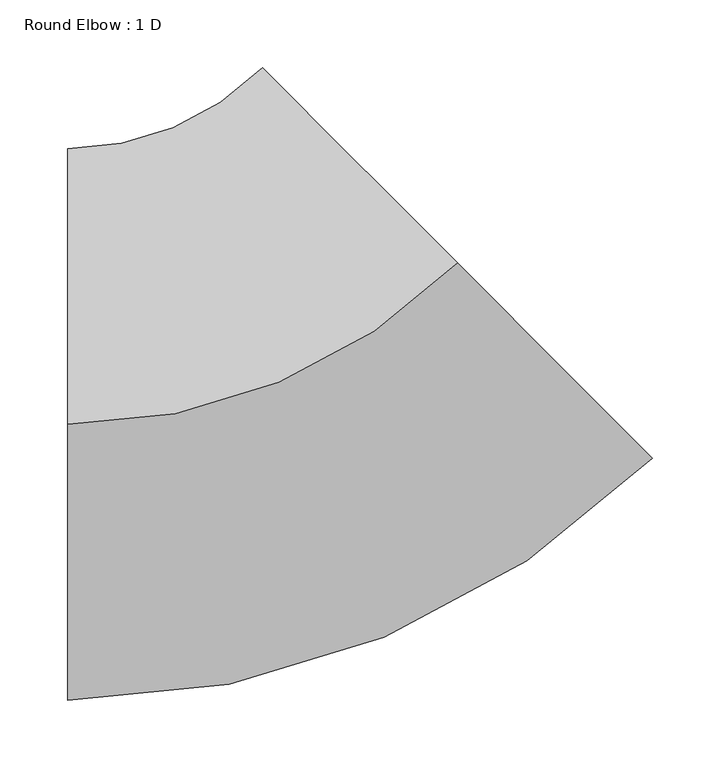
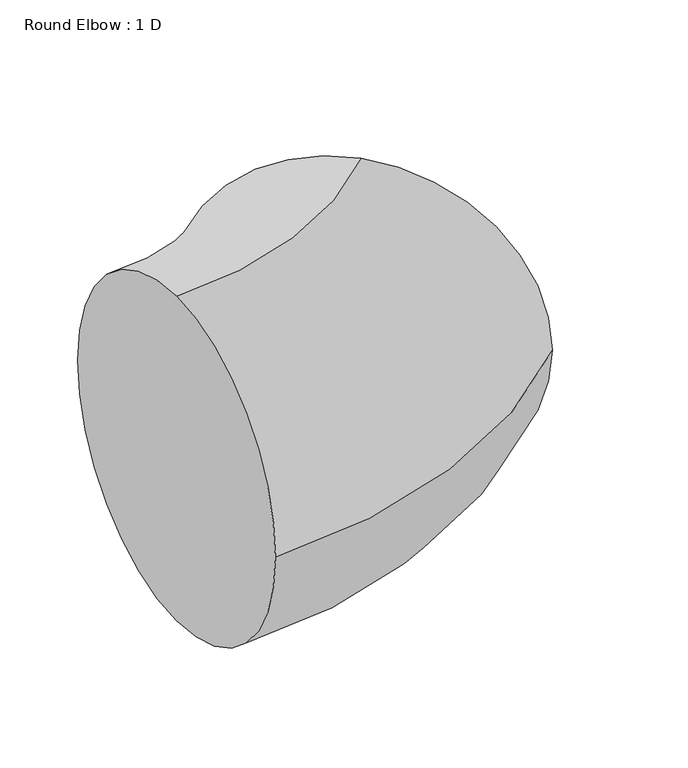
"""IFC4 building model written with IfcOpenShell, lengths in millimetres: duct fitting geometry, Round Elbow : 1 D."""

from ifc_helpers import new_model, si_unit, point, frame, origin, place, context, project, spatial, circle_curve, ellipse_curve, trimmed, source, transform, mapped, element, save
from ifc_brep_helpers import plane_surface, revolved_surface, advanced_brep


def round_elbow_1_d_6f47ea7d(model_context):
    return source(origin(), model_context, "Body", "AdvancedBrep", [
        advanced_brep(
        [(-168.2393205, 0.0, 203.2), (-168.2393205, 203.2, 0.0), (-168.2393205, 0.0, -203.2), (-168.2393205, -203.2, 0.0), (119.0116662, 118.9146428, 203.2), (262.6371596, -24.8280359, 0.0), (119.0116662, 118.9146428, -203.2), (-24.6138271, 262.6573214, 0.0)],
        [
            (0, 1, circle_curve(frame((-168.2393205, 0.0, 0.0), z_axis=(-1.0, 0.0, 0.0), x_axis=(0.0, 1.0, 0.0)), 203.2)),
            (1, 2, circle_curve(frame((-168.2393205, 0.0, 0.0), z_axis=(-1.0, 0.0, 0.0), x_axis=(0.0, 1.0, 0.0)), 203.2)),
            (2, 3, circle_curve(frame((-168.2393205, 0.0, 0.0), z_axis=(-1.0, 0.0, 0.0), x_axis=(0.0, 1.0, 0.0)), 203.2)),
            (3, 0, circle_curve(frame((-168.2393205, 0.0, 0.0), z_axis=(-1.0, 0.0, 0.0), x_axis=(0.0, 1.0, 0.0)), 203.2)),
            (4, 5, circle_curve(frame((119.0116662, 118.9146428, 0.0), z_axis=(0.7073950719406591, 0.7068183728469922, 0.0), x_axis=(-0.7068183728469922, 0.7073950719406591, 0.0)), 203.2)),
            (5, 6, circle_curve(frame((119.0116662, 118.9146428, 0.0), z_axis=(0.7073950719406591, 0.7068183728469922, 0.0), x_axis=(-0.7068183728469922, 0.7073950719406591, 0.0)), 203.2)),
            (6, 7, circle_curve(frame((119.0116662, 118.9146428, 0.0), z_axis=(0.7073950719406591, 0.7068183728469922, 0.0), x_axis=(-0.7068183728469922, 0.7073950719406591, 0.0)), 203.2)),
            (7, 4, circle_curve(frame((119.0116662, 118.9146428, 0.0), z_axis=(0.7073950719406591, 0.7068183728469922, 0.0), x_axis=(-0.7068183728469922, 0.7073950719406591, 0.0)), 203.2)),
            (7, 1, circle_curve(frame((-168.2393205, 406.4, 0.0), z_axis=(0.0, 0.0, -1.0), x_axis=(0.0, -1.0, 0.0)), 203.2)),
            (0, 4, circle_curve(frame((-168.2393205, 406.4, 203.2), z_axis=(0.0, 0.0, 1.0), x_axis=(0.0, -1.0, 0.0)), 406.4)),
            (6, 2, circle_curve(frame((-168.2393205, 406.4, -203.2), z_axis=(0.0, 0.0, -1.0), x_axis=(0.0, -1.0, 0.0)), 406.4)),
            (5, 3, circle_curve(frame((-168.2393205, 406.4, 0.0), z_axis=(0.0, 0.0, -1.0), x_axis=(0.0, -1.0, 0.0)), 609.6)),
        ],
        [
            plane_surface(frame((-168.2393205, 0.0, 0.0), z_axis=(-1.0, 0.0, 0.0), x_axis=(0.0, 0.0, 1.0))),
            plane_surface(frame((119.0116662, 118.9146428, 0.0), z_axis=(0.7073950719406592, 0.7068183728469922, 0.0), x_axis=(0.0, 0.0, 1.0))),
            revolved_surface(trimmed(ellipse_curve(frame((-168.2393205, 0.0, 0.0), z_axis=(-1.0, 0.0, 0.0), x_axis=(0.0, 1.0, 0.0)), 203.2, 203.2), [point((-168.2393205, 0.0, 203.2))], [point((-168.2393205, 203.2, 0.0))], True, "CARTESIAN"), (-168.2393205, 406.4, 0.0), (0.0, 0.0, 1.0)),
            revolved_surface(trimmed(ellipse_curve(frame((-168.2393205, 0.0, 0.0), z_axis=(-1.0, 0.0, 0.0), x_axis=(0.0, 1.0, 0.0)), 203.2, 203.2), [point((-168.2393205, 203.2, 0.0))], [point((-168.2393205, 0.0, -203.2))], True, "CARTESIAN"), (-168.2393205, 406.4, 0.0), (0.0, 0.0, 1.0)),
            revolved_surface(trimmed(ellipse_curve(frame((-168.2393205, 0.0, 0.0), z_axis=(-1.0, 0.0, 0.0), x_axis=(0.0, 1.0, 0.0)), 203.2, 203.2), [point((-168.2393205, 0.0, -203.2))], [point((-168.2393205, -203.2, 0.0))], True, "CARTESIAN"), (-168.2393205, 406.4, 0.0), (0.0, 0.0, 1.0)),
            revolved_surface(trimmed(ellipse_curve(frame((-168.2393205, 0.0, 0.0), z_axis=(-1.0, 0.0, 0.0), x_axis=(0.0, 1.0, 0.0)), 203.2, 203.2), [point((-168.2393205, -203.2, 0.0))], [point((-168.2393205, 0.0, 203.2))], True, "CARTESIAN"), (-168.2393205, 406.4, 0.0), (0.0, 0.0, 1.0)),
        ],
        [
            (0, [[1, 2, 3, 4]]),
            (1, [[5, 6, 7, 8]]),
            (2, [[9, -1, 10, -8]]),
            (3, [[11, -2, -9, -7]]),
            (4, [[12, -3, -11, -6]]),
            (5, [[-10, -4, -12, -5]]),
        ],
    ),
    ])


if __name__ == "__main__":
    model = new_model("IFC4")
    model_context = context("Model", 3, world=origin())
    ifc_project = project(units=[si_unit("LENGTHUNIT", "METRE", prefix="MILLI")], contexts=[model_context])
    site = spatial("IfcSite", under=ifc_project)
    building = spatial("IfcBuilding", under=site)
    placement = place(None, origin())
    round_elbow_1_d_shape = round_elbow_1_d_6f47ea7d(model_context)
    element("IfcDuctFitting", 1, ObjectType="Round Elbow : 1 D", at=placement, inside=building, context=model_context, shape_type="MappedRepresentation", body=[
        mapped(round_elbow_1_d_shape, transform((0.0, 0.0, 0.0), x_axis=(1.0, 0.0, 0.0), y_axis=(0.0, 1.0, 0.0), z_axis=(0.0, 0.0, 1.0))),
    ])
    save(model, "model.ifc")
